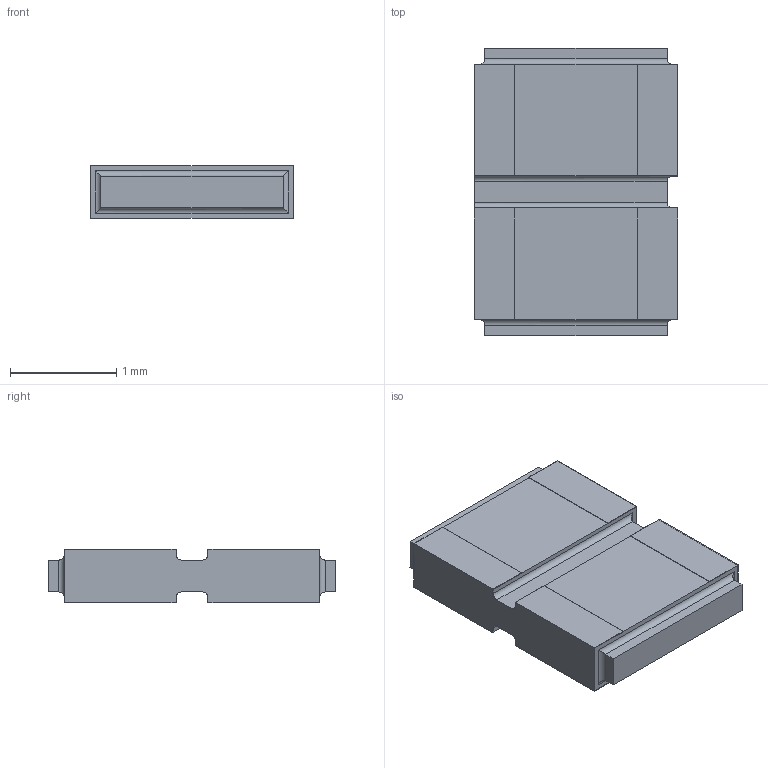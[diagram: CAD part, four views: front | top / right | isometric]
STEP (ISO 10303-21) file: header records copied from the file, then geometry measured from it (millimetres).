
FILE_DESCRIPTION(/* description */ (''),/* implementation_level */ '2;1');
FILE_NAME(/* name */ 'S:\DOCUMENT\AUTOCAD\3D_Modèles\10_3D-pour-VISHAY-COM\PRA\PRA135\PRA135-C2_à_C8\20_STEP\PRA135C2_B-or-N-or-G.stp',/* time_stamp */ '2017-12-18T12:00:42+01:00',/* author */ ('dparmentier'),/* organization */ ('unknown'),/* preprocessor_version */ 'ST-DEVELOPER v17',/* originating_system */ 'Autodesk Inventor 2018',/* authorisation */ '');
FILE_SCHEMA (('AUTOMOTIVE_DESIGN { 1 0 10303 214 3 1 1 }'));
Length unit declared in the file: millimetre
Products named in the file (1): PRA135C2_B-or-N-or-G
Bounding box: 1.91 x 2.7 x 0.5 mm (x, y, z)
Volume: 2.3 mm3; surface area: 25.6 mm2
Topology: 4 solids, 4 shells, 84 faces, 210 edges, 136 vertices
Faces by surface type: plane 66, cylinder 18
Entity records: 2512 total; most frequent: CARTESIAN_POINT 431, ORIENTED_EDGE 420, DIRECTION 404, EDGE_CURVE 210, LINE 186, VECTOR 186, VERTEX_POINT 136, AXIS2_PLACEMENT_3D 109
